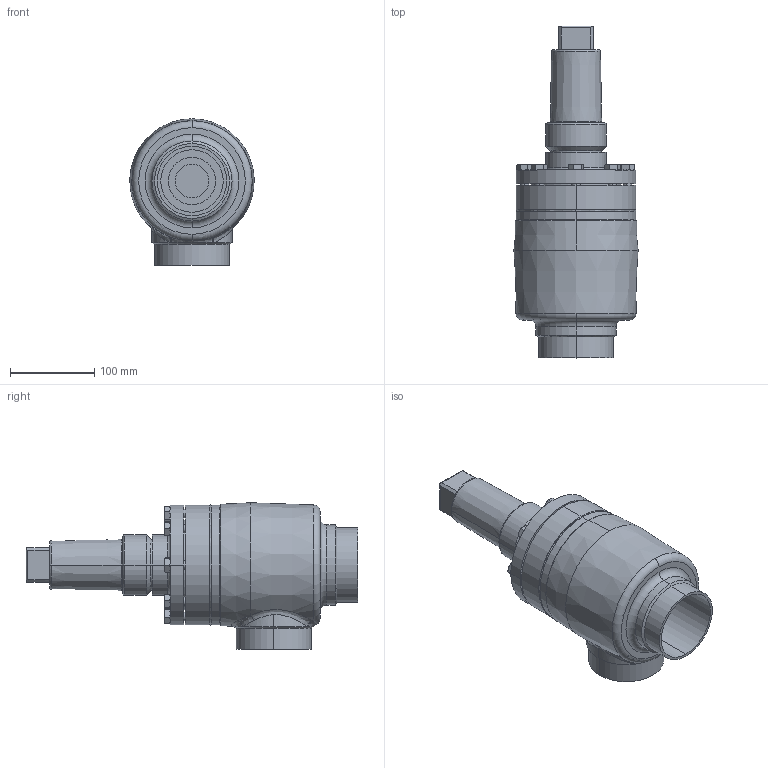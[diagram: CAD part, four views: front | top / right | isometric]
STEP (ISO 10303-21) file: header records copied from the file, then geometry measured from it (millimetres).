
FILE_DESCRIPTION (( 'STEP AP214' ), '1' );
FILE_NAME ('HRAR22400D18-DN080_R1_PS40.STEP', '2007-01-08T07:14:59', ( 'Herr Grams' ), ( 'AWP GmbH' ), 'SwSTEP 2.0', 'SolidWorks 2002296', '' );
FILE_SCHEMA (( 'AUTOMOTIVE_DESIGN' ));
Length unit declared in the file: millimetre
Products named in the file (9): HRAR22400D18-DN080_R1_PS40; AVR26300E18_Deck+Schr-DN80_Standard; Deckel26300E18-DN80_Standard; Sechskantschraube-DIN933_M10x 30; Kappe16402_DN080-100_Standard; Gehäuse-kpl16400-DN080_R1_Standard; Kopfstück16300-DN080_Standard; bead-DN080-1_Standard; Gehäuse16400-DN080_Standard
Assembly tree (15 placements, depth 3):
  HRAR22400D18-DN080_R1_PS40
    AVR26300E18_Deck+Schr-DN80_Standard
      Sechskantschraube-DIN933_M10x 30  x8
      Deckel26300E18-DN80_Standard
    Kappe16402_DN080-100_Standard
    Gehäuse-kpl16400-DN080_R1_Standard
      Kopfstück16300-DN080_Standard
      bead-DN080-1_Standard
      Gehäuse16400-DN080_Standard
Bounding box: 147.49 x 394 x 173.89 mm (x, y, z)
Volume: 1942618.1 mm3; surface area: 351476.8 mm2
Topology: 13 solids, 13 shells, 357 faces, 766 edges, 459 vertices
Faces by surface type: cone 133, plane 104, cylinder 96, torus 12, bspline 12
Entity records: 17026 total; most frequent: CARTESIAN_POINT 12188, DIRECTION 921, ORIENTED_EDGE 804, EDGE_CURVE 402, AXIS2_PLACEMENT_3D 401, VERTEX_POINT 249, EDGE_LOOP 223, CIRCLE 211
